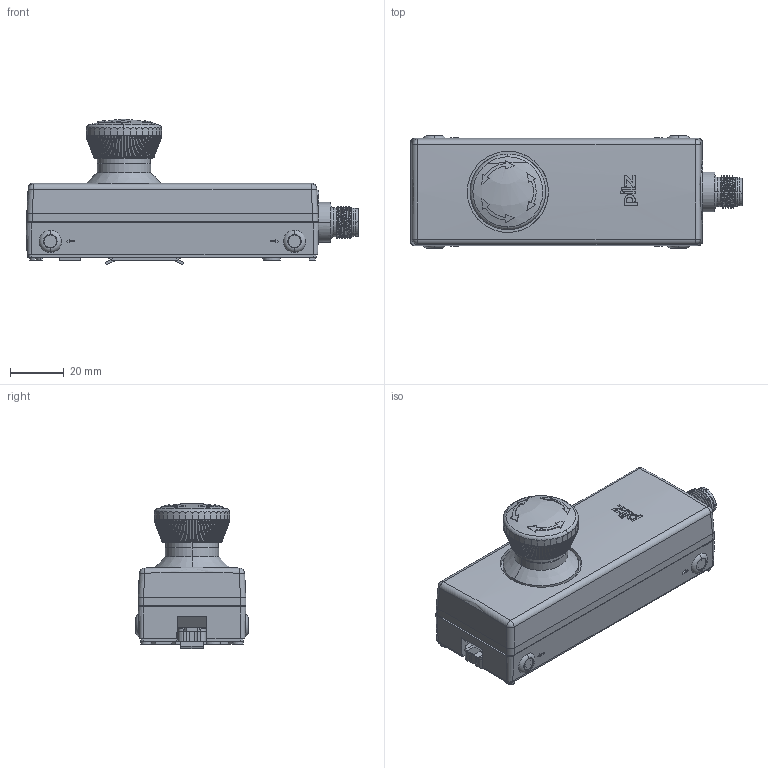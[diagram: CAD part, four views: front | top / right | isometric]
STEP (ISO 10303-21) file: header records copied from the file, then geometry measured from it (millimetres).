
FILE_DESCRIPTION((''),'2;1');
FILE_NAME('2011778','2012-12-12T',('rink'),(''),'PRO/ENGINEER BY PARAMETRIC TECHNOLOGY CORPORATION, 2011040','PRO/ENGINEER BY PARAMETRIC TECHNOLOGY CORPORATION, 2011040','');
FILE_SCHEMA(('AUTOMOTIVE_DESIGN_CC2 { 1 2 10303 214 -1 1 5 2 }'));
Products named in the file (1): 2011778
Bounding box: 123.15 x 41.8 x 53.83 mm (x, y, z)
Volume: 63655.3 mm3; surface area: 55830.9 mm2
Topology: 2 solids, 2 shells, 3396 faces, 9449 edges, 6067 vertices
Faces by surface type: plane 1987, cylinder 630, torus 306, cone 268, bspline 179, sphere 25, extrusion 1
Entity records: 149896 total; most frequent: CARTESIAN_POINT 36853, ORIENTED_EDGE 18794, DIRECTION 16293, PRESENTATION_STYLE_ASSIGNMENT 9409, STYLED_ITEM 9404, CURVE_STYLE 9402, EDGE_CURVE 9397, VERTEX_POINT 6058
